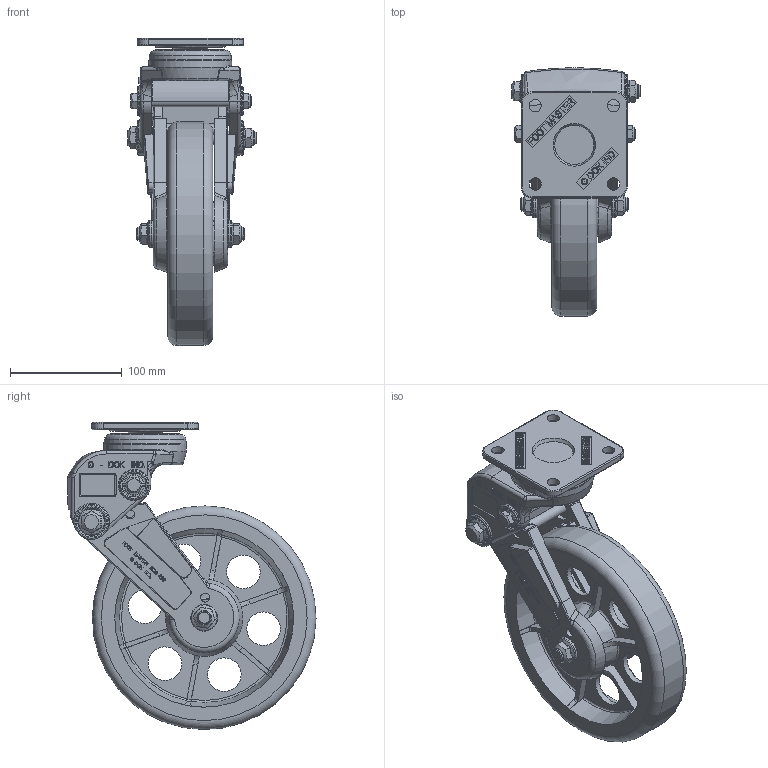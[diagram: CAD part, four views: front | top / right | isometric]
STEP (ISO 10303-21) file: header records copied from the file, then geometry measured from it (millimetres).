
FILE_DESCRIPTION((''),'2;1');
FILE_NAME('C:\Documents and Settings\Administrator\바탕 화면\3D STEP\GDS-SERIES\GDS-200\GDS-200A-SF.stp','2010-12-27T13:58:02',('Administrator'),(''),'Autodesk Inventor 2009','Autodesk Inventor 2009','');
FILE_SCHEMA(('AUTOMOTIVE_DESIGN { 1 0 10303 214 1 1 1 1 }'));
Length unit declared in the file: millimetre
Products named in the file (1): GDS-200A-SF
Bounding box: 114.5 x 221.83 x 274.64 mm (x, y, z)
Volume: 1251693.5 mm3; surface area: 279255.1 mm2
Topology: 12 solids, 12 shells, 3699 faces, 10321 edges, 6796 vertices
Faces by surface type: plane 1999, bspline 1217, cylinder 311, cone 84, torus 82, sphere 6
Full cylindrical faces by diameter (mm): 8 x4, 10 x4, 11 x4, 12 x4, 12.1 x2, 12.2 x2, 15 x4, 18 x1, 18.6 x2, 20 x2, 20.4 x2, 21.667 x4, 24 x4, 26 x2, 27 x2, 28.333 x4, 29 x1, 30 x7, 30.6 x1, 31 x2, 35 x2, 39 x1, 41.54 x1, 42.34 x1, 74 x1, 200 x1
Entity records: 137455 total; most frequent: CARTESIAN_POINT 51588, ORIENTED_EDGE 20120, DIRECTION 13549, EDGE_CURVE 10060, VERTEX_POINT 6727, VECTOR 6305, LINE 6305, EDGE_LOOP 4109
